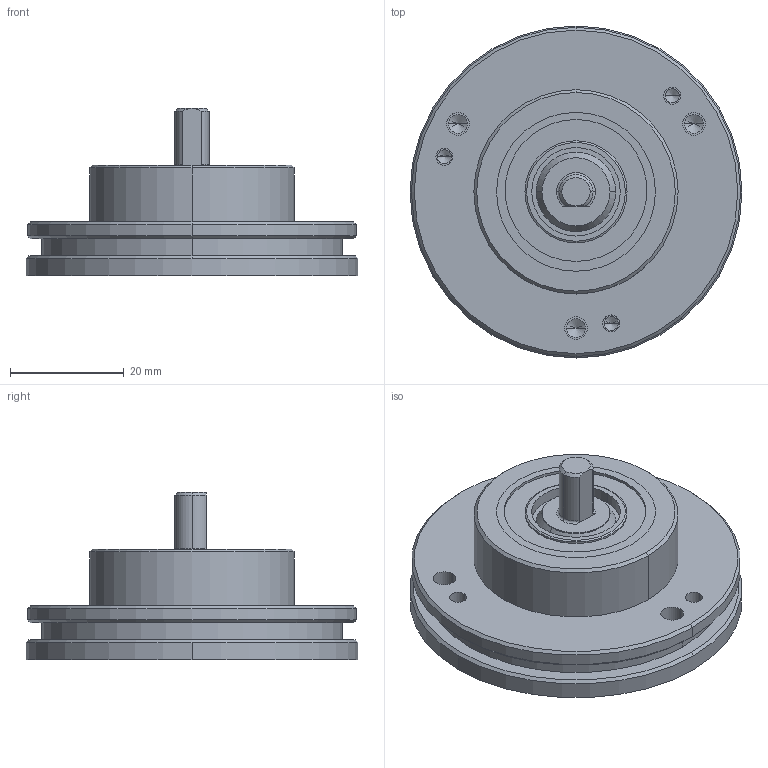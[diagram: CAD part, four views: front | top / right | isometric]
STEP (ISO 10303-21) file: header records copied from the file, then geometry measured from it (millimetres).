
FILE_DESCRIPTION (( 'STEP AP203' ), '1' );
FILE_NAME ('MCD-L06S-Q5B-N.STEP', '2013-10-24T12:28:07', ( 'Admin' ), ( 'Microsoft' ), 'SwSTEP 2.0', 'SolidWorks 2006104', '' );
FILE_SCHEMA (( 'CONFIG_CONTROL_DESIGN' ));
Length unit declared in the file: millimetre
Products named in the file (1): MCD-L06S-Q5B-N
Bounding box: 58.5 x 58.5 x 29.5 mm (x, y, z)
Volume: 29970.3 mm3; surface area: 18718.2 mm2
Topology: 16 solids, 17 shells, 419 faces, 1006 edges, 637 vertices
Faces by surface type: plane 141, cylinder 87, bspline 87, cone 49, torus 39, sphere 16
Entity records: 19567 total; most frequent: CARTESIAN_POINT 10378, ORIENTED_EDGE 1908, DIRECTION 1742, EDGE_CURVE 954, AXIS2_PLACEMENT_3D 633, VERTEX_POINT 613, EDGE_LOOP 479, VECTOR 476
